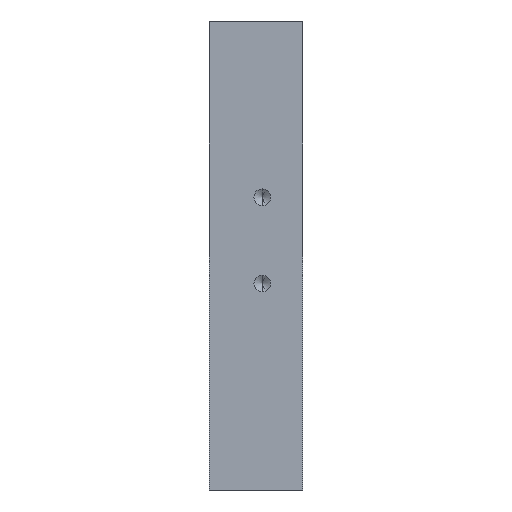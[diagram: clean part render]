
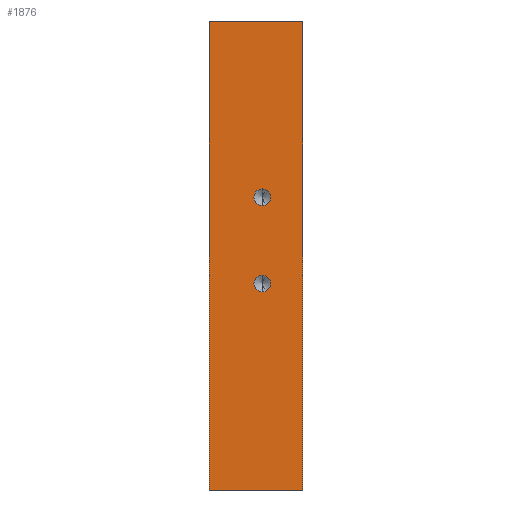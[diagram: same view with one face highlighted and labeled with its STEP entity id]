
A CAD part, left-side view. The second image highlights one B-rep face of the part: STEP entity #1876.
In plain terms, the highlighted planar face has unit normal (-1, 0, 0).
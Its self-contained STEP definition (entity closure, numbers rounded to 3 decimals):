
#130 = DIRECTION ( 'NONE',  ( 0., 0., 1. ) ) ;
#358 = CARTESIAN_POINT ( 'NONE',  ( 0., 3.9, -16.05 ) ) ;
#418 = FACE_BOUND ( 'NONE', #9608, .T. ) ;
#546 = CARTESIAN_POINT ( 'NONE',  ( 0., 3.9, -25.95 ) ) ;
#611 = CARTESIAN_POINT ( 'NONE',  ( 0., 0., 0. ) ) ;
#684 = EDGE_CURVE ( 'NONE', #918, #3561, #8097, .T. ) ;
#734 = AXIS2_PLACEMENT_3D ( 'NONE', #3091, #13081, #14341 ) ;
#901 = CARTESIAN_POINT ( 'NONE',  ( 0., 9., 0. ) ) ;
#918 = VERTEX_POINT ( 'NONE', #7408 ) ;
#982 = VECTOR ( 'NONE', #5512, 1000. ) ;
#1222 = AXIS2_PLACEMENT_3D ( 'NONE', #15528, #10312, #130 ) ;
#1876 = ADVANCED_FACE ( 'NONE', ( #418, #14497, #8025 ), #10677, .F. ) ;
#2130 = VECTOR ( 'NONE', #7286, 1000. ) ;
#2398 = LINE ( 'NONE', #12320, #4821 ) ;
#2955 = AXIS2_PLACEMENT_3D ( 'NONE', #10767, #8519, #9846 ) ;
#3040 = EDGE_CURVE ( 'NONE', #7058, #4504, #13968, .T. ) ;
#3083 = AXIS2_PLACEMENT_3D ( 'NONE', #5603, #8273, #14596 ) ;
#3091 = CARTESIAN_POINT ( 'NONE',  ( 0., 9., 0. ) ) ;
#3561 = VERTEX_POINT ( 'NONE', #10008 ) ;
#3568 = DIRECTION ( 'NONE',  ( 0., 0., 1. ) ) ;
#3637 = ORIENTED_EDGE ( 'NONE', *, *, #7780, .T. ) ;
#4025 = EDGE_CURVE ( 'NONE', #918, #5061, #2398, .T. ) ;
#4236 = VERTEX_POINT ( 'NONE', #6492 ) ;
#4504 = VERTEX_POINT ( 'NONE', #358 ) ;
#4532 = ORIENTED_EDGE ( 'NONE', *, *, #10576, .F. ) ;
#4613 = ORIENTED_EDGE ( 'NONE', *, *, #15173, .F. ) ;
#4731 = EDGE_CURVE ( 'NONE', #4504, #7058, #7206, .T. ) ;
#4786 = CARTESIAN_POINT ( 'NONE',  ( 0., 3.9, -24.35 ) ) ;
#4821 = VECTOR ( 'NONE', #3568, 1000. ) ;
#4916 = ORIENTED_EDGE ( 'NONE', *, *, #3040, .F. ) ;
#4965 = EDGE_CURVE ( 'NONE', #5061, #4236, #15568, .T. ) ;
#5061 = VERTEX_POINT ( 'NONE', #901 ) ;
#5512 = DIRECTION ( 'NONE',  ( 0., -1., 0. ) ) ;
#5603 = CARTESIAN_POINT ( 'NONE',  ( 0., 3.9, -16.85 ) ) ;
#5617 = LINE ( 'NONE', #611, #2130 ) ;
#5761 = ORIENTED_EDGE ( 'NONE', *, *, #4965, .F. ) ;
#6020 = DIRECTION ( 'NONE',  ( 0., 0., 1. ) ) ;
#6492 = CARTESIAN_POINT ( 'NONE',  ( 0., 0., 0. ) ) ;
#6563 = CIRCLE ( 'NONE', #1222, 0.8 ) ;
#6600 = CARTESIAN_POINT ( 'NONE',  ( 0., 9., -45. ) ) ;
#7058 = VERTEX_POINT ( 'NONE', #12037 ) ;
#7206 = CIRCLE ( 'NONE', #2955, 0.8 ) ;
#7286 = DIRECTION ( 'NONE',  ( 0., 0., 1. ) ) ;
#7408 = CARTESIAN_POINT ( 'NONE',  ( 0., 9., -45. ) ) ;
#7780 = EDGE_CURVE ( 'NONE', #3561, #4236, #5617, .T. ) ;
#8025 = FACE_OUTER_BOUND ( 'NONE', #14205, .T. ) ;
#8097 = LINE ( 'NONE', #6600, #982 ) ;
#8228 = ORIENTED_EDGE ( 'NONE', *, *, #4731, .F. ) ;
#8273 = DIRECTION ( 'NONE',  ( -1., 0., 0. ) ) ;
#8519 = DIRECTION ( 'NONE',  ( -1., 0., 0. ) ) ;
#8763 = ORIENTED_EDGE ( 'NONE', *, *, #4025, .F. ) ;
#9336 = CARTESIAN_POINT ( 'NONE',  ( 0., 9., 0. ) ) ;
#9602 = CARTESIAN_POINT ( 'NONE',  ( 0., 3.9, -25.15 ) ) ;
#9608 = EDGE_LOOP ( 'NONE', ( #4613, #4532 ) ) ;
#9846 = DIRECTION ( 'NONE',  ( 0., 0., 1. ) ) ;
#10008 = CARTESIAN_POINT ( 'NONE',  ( 0., 0., -45. ) ) ;
#10312 = DIRECTION ( 'NONE',  ( -1., 0., 0. ) ) ;
#10576 = EDGE_CURVE ( 'NONE', #11868, #15476, #15862, .T. ) ;
#10677 = PLANE ( 'NONE',  #734 ) ;
#10767 = CARTESIAN_POINT ( 'NONE',  ( 0., 3.9, -16.85 ) ) ;
#11436 = EDGE_LOOP ( 'NONE', ( #8228, #4916 ) ) ;
#11720 = ORIENTED_EDGE ( 'NONE', *, *, #684, .T. ) ;
#11836 = DIRECTION ( 'NONE',  ( 0., -1., 0. ) ) ;
#11868 = VERTEX_POINT ( 'NONE', #546 ) ;
#12037 = CARTESIAN_POINT ( 'NONE',  ( 0., 3.9, -17.65 ) ) ;
#12320 = CARTESIAN_POINT ( 'NONE',  ( 0., 9., 0. ) ) ;
#12789 = VECTOR ( 'NONE', #11836, 1000. ) ;
#13081 = DIRECTION ( 'NONE',  ( 1., 0., 0. ) ) ;
#13345 = DIRECTION ( 'NONE',  ( -1., 0., 0. ) ) ;
#13968 = CIRCLE ( 'NONE', #3083, 0.8 ) ;
#14205 = EDGE_LOOP ( 'NONE', ( #3637, #5761, #8763, #11720 ) ) ;
#14297 = AXIS2_PLACEMENT_3D ( 'NONE', #9602, #13345, #6020 ) ;
#14341 = DIRECTION ( 'NONE',  ( 0., 0., -1. ) ) ;
#14497 = FACE_BOUND ( 'NONE', #11436, .T. ) ;
#14596 = DIRECTION ( 'NONE',  ( 0., 0., 1. ) ) ;
#15173 = EDGE_CURVE ( 'NONE', #15476, #11868, #6563, .T. ) ;
#15476 = VERTEX_POINT ( 'NONE', #4786 ) ;
#15528 = CARTESIAN_POINT ( 'NONE',  ( 0., 3.9, -25.15 ) ) ;
#15568 = LINE ( 'NONE', #9336, #12789 ) ;
#15862 = CIRCLE ( 'NONE', #14297, 0.8 ) ;
